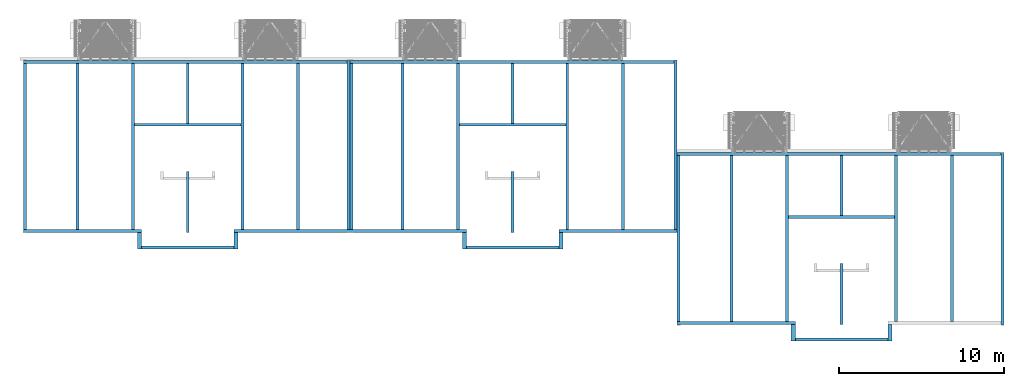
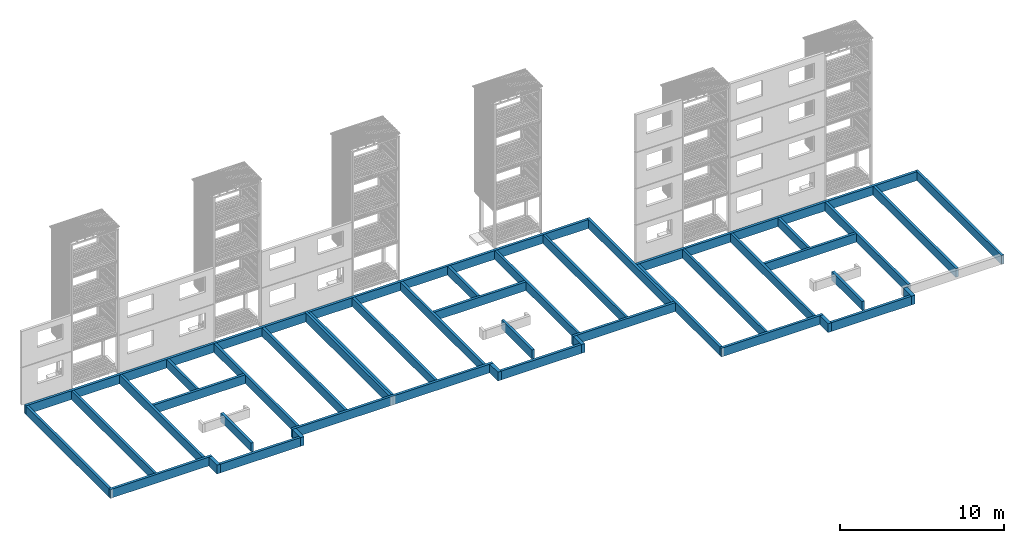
# One storey, part 1 of 182: 43 walls.
"""IFC2X3 building model written with IfcOpenShell, lengths in metres."""

from ifc_helpers import new_model, si_unit, frame, frame_2d, origin, origin_with_axes, place, context, project, spatial, rectangle, extrude, element, save


model = new_model("IFC2X3")

# Units and contexts
model_context = context("Model", 3, precision=1e-06, world=origin())
ifc_project = project(units=[si_unit("LENGTHUNIT", "METRE"), si_unit("PLANEANGLEUNIT", "RADIAN")], contexts=[model_context])

# Site, building, storey
site = spatial("IfcSite", under=ifc_project, CompositionType="ELEMENT")
building = spatial("IfcBuilding", under=site, CompositionType="ELEMENT")
storey = spatial("IfcBuildingStorey", under=building, Name="vs", CompositionType="ELEMENT", Elevation=-0.85)

# Walls
placement = place(None, origin())
wall_1_placement = place(placement, frame((32.52499999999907, 0.020077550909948, -0.85), z_axis=(0.0, 0.0, 1.0), x_axis=(0.0, -1.0, 0.0)))
element("IfcWall", 1, at=wall_1_placement, inside=storey, context=model_context, shape_type="SweptSolid", body=[
    extrude(rectangle(XDim=0.999914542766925, YDim=0.249999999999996, at=frame_2d((0.499957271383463, 0.124999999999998), x_axis=(1.0, 0.0)), kind="CURVE"), origin_with_axes(), (0.0, 0.0, 1.0), 0.65),
])
wall_2_placement = place(placement, frame((12.795000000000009, 0.02016279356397, -0.85), z_axis=(0.0, 0.0, 1.0), x_axis=(1.0, 0.0, 0.0)))
element("IfcWall", 2, at=wall_2_placement, inside=storey, context=model_context, shape_type="SweptSolid", body=[
    extrude(rectangle(XDim=14.110000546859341, YDim=0.18, at=frame_2d((7.055000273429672, 0.09), x_axis=(1.0, 0.0)), kind="CURVE"), origin_with_axes(), (0.0, 0.0, 1.0), 0.65),
])
wall_3_placement = place(placement, frame((39.51999999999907, 10.470077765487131, -0.85), z_axis=(0.0, 0.0, 1.0), x_axis=(-1.0, 0.0, 0.0)))
element("IfcWall", 3, at=wall_3_placement, inside=storey, context=model_context, shape_type="SweptSolid", body=[
    extrude(rectangle(XDim=19.669999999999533, YDim=0.18, at=frame_2d((9.834999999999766, 0.09), x_axis=(1.0, 0.0)), kind="CURVE"), origin_with_axes(), (0.0, 0.0, 1.0), 0.65),
])
wall_4_placement = place(placement, frame((10.075000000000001, 0.020038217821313, -0.85), z_axis=(0.0, 0.0, 1.0), x_axis=(0.0, 1.0, 0.0)))
element("IfcWall", 4, at=wall_4_placement, inside=storey, context=model_context, shape_type="SweptSolid", body=[
    extrude(rectangle(XDim=3.700039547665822, YDim=0.18, at=frame_2d((1.850019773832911, 0.09), x_axis=(1.0, 0.0)), kind="CURVE"), origin_with_axes(), (0.0, 0.0, 1.0), 0.65),
])
wall_5_placement = place(placement, frame((19.849999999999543, 10.290077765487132, -0.85), z_axis=(0.0, 0.0, 1.0), x_axis=(0.0, -1.0, 0.0)))
element("IfcWall", 5, at=wall_5_placement, inside=storey, context=model_context, shape_type="SweptSolid", body=[
    extrude(rectangle(XDim=10.08991497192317, YDim=0.18, at=frame_2d((5.044957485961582, 0.09), x_axis=(1.0, 0.0)), kind="CURVE"), origin_with_axes(), (0.0, 0.0, 1.0), 0.65),
])
wall_6_placement = place(placement, frame((52.90999947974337, 1.050077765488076, -0.85), z_axis=(0.0, 0.0, 1.0), x_axis=(-1.0, 0.0, 0.0)))
element("IfcWall", 6, at=wall_6_placement, inside=storey, context=model_context, shape_type="SweptSolid", body=[
    extrude(rectangle(XDim=6.449999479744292, YDim=0.18, at=frame_2d((3.224999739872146, 0.09), x_axis=(1.0, 0.0)), kind="CURVE"), origin_with_axes(), (0.0, 0.0, 1.0), 0.65),
])
wall_7_placement = place(placement, frame((12.795000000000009, 0.02016279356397, -0.85), z_axis=(0.0, 0.0, 1.0), x_axis=(0.0, -1.0, 0.0)))
element("IfcWall", 7, at=wall_7_placement, inside=storey, context=model_context, shape_type="SweptSolid", body=[
    extrude(rectangle(XDim=1.000085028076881, YDim=0.25, at=frame_2d((0.500042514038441, 0.125), x_axis=(1.0, 0.0)), kind="CURVE"), origin_with_axes(), (0.0, 0.0, 1.0), 0.65),
])
wall_8_placement = place(placement, frame((26.905000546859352, -0.979836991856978, -0.85), z_axis=(0.0, 0.0, 1.0), x_axis=(0.0, 1.0, 0.0)))
element("IfcWall", 8, at=wall_8_placement, inside=storey, context=model_context, shape_type="SweptSolid", body=[
    extrude(rectangle(XDim=0.999999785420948, YDim=0.25, at=frame_2d((0.499999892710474, 0.125), x_axis=(1.0, 0.0)), kind="CURVE"), origin_with_axes(), (0.0, 0.0, 1.0), 0.65),
])
wall_9_placement = place(placement, frame((16.77000000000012, 0.20016279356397, -0.85), z_axis=(0.0, 0.0, 1.0), x_axis=(0.0, 1.0, 0.0)))
element("IfcWall", 9, at=wall_9_placement, inside=storey, context=model_context, shape_type="SweptSolid", body=[
    extrude(rectangle(XDim=10.08991497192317, YDim=0.18, at=frame_2d((5.044957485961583, 0.09), x_axis=(1.0, 0.0)), kind="CURVE"), origin_with_axes(), (0.0, 0.0, 1.0), 0.65),
])
wall_10_placement = place(placement, frame((32.939999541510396, 6.650077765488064, -0.85), z_axis=(0.0, 0.0, 1.0), x_axis=(-1.0, 0.0, 0.0)))
element("IfcWall", 10, at=wall_10_placement, inside=storey, context=model_context, shape_type="SweptSolid", body=[
    extrude(rectangle(XDim=6.449999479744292, YDim=0.18, at=frame_2d((3.224999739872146, 0.09), x_axis=(1.0, 0.0)), kind="CURVE"), origin_with_axes(), (0.0, 0.0, 1.0), 0.65),
])
wall_11_placement = place(placement, frame((6.925, 0.020077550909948, -0.85), z_axis=(0.0, 0.0, 1.0), x_axis=(0.0, -1.0, 0.0)))
element("IfcWall", 11, at=wall_11_placement, inside=storey, context=model_context, shape_type="SweptSolid", body=[
    extrude(rectangle(XDim=0.999999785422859, YDim=0.25, at=frame_2d((0.499999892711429, 0.125), x_axis=(1.0, 0.0)), kind="CURVE"), origin_with_axes(), (0.0, 0.0, 1.0), 0.65),
])
wall_12_placement = place(placement, frame((7.175, -0.979922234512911, -0.85), z_axis=(0.0, 0.0, 1.0), x_axis=(1.0, 0.0, 0.0)))
element("IfcWall", 12, at=wall_12_placement, inside=storey, context=model_context, shape_type="SweptSolid", body=[
    extrude(rectangle(XDim=5.620000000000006, YDim=0.18, at=frame_2d((2.810000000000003, 0.09), x_axis=(1.0, 0.0)), kind="CURVE"), origin_with_axes(), (0.0, 0.0, 1.0), 0.65),
])
wall_13_placement = place(placement, frame((59.36999999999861, 4.870077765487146, -0.85), z_axis=(0.0, 0.0, 1.0), x_axis=(-1.0, 0.0, 0.0)))
element("IfcWall", 13, at=wall_13_placement, inside=storey, context=model_context, shape_type="SweptSolid", body=[
    extrude(rectangle(XDim=19.669999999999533, YDim=0.18, at=frame_2d((9.834999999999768, 0.09), x_axis=(1.0, 0.0)), kind="CURVE"), origin_with_axes(), (0.0, 0.0, 1.0), 0.65),
])
wall_14_placement = place(placement, frame((13.20999947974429, 6.650077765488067, -0.85), z_axis=(0.0, 0.0, 1.0), x_axis=(-1.0, 0.0, 0.0)))
element("IfcWall", 14, at=wall_14_placement, inside=storey, context=model_context, shape_type="SweptSolid", body=[
    extrude(rectangle(XDim=6.449999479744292, YDim=0.18, at=frame_2d((3.224999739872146, 0.09), x_axis=(1.0, 0.0)), kind="CURVE"), origin_with_axes(), (0.0, 0.0, 1.0), 0.65),
])
wall_15_placement = place(placement, frame((29.80499999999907, 0.020038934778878, -0.85), z_axis=(0.0, 0.0, 1.0), x_axis=(0.0, 1.0, 0.0)))
element("IfcWall", 15, at=wall_15_placement, inside=storey, context=model_context, shape_type="SweptSolid", body=[
    extrude(rectangle(XDim=3.700038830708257, YDim=0.18, at=frame_2d((1.850019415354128, 0.09), x_axis=(1.0, 0.0)), kind="CURVE"), origin_with_axes(), (0.0, 0.0, 1.0), 0.65),
])
wall_16_placement = place(placement, frame((46.87499999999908, -6.579922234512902, -0.85), z_axis=(0.0, 0.0, 1.0), x_axis=(1.0, 0.0, 0.0)))
element("IfcWall", 16, at=wall_16_placement, inside=storey, context=model_context, shape_type="SweptSolid", body=[
    extrude(rectangle(XDim=5.620000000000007, YDim=0.18, at=frame_2d((2.810000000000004, 0.09), x_axis=(1.0, 0.0)), kind="CURVE"), origin_with_axes(), (0.0, 0.0, 1.0), 0.65),
])
wall_17_placement = place(placement, frame((-4e-15, 10.29007776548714, -0.85), z_axis=(0.0, 0.0, 1.0), x_axis=(0.0, -1.0, 0.0)))
element("IfcWall", 17, at=wall_17_placement, inside=storey, context=model_context, shape_type="SweptSolid", body=[
    extrude(rectangle(XDim=10.090000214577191, YDim=0.18, at=frame_2d((5.045000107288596, 0.09), x_axis=(1.0, 0.0)), kind="CURVE"), origin_with_axes(), (0.0, 0.0, 1.0), 0.65),
])
wall_18_placement = place(placement, frame((49.77499999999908, 1.050077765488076, -0.85), z_axis=(0.0, 0.0, 1.0), x_axis=(0.0, 1.0, 0.0)))
element("IfcWall", 18, at=wall_18_placement, inside=storey, context=model_context, shape_type="SweptSolid", body=[
    extrude(rectangle(XDim=3.639999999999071, YDim=0.18, at=frame_2d((1.819999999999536, 0.09), x_axis=(1.0, 0.0)), kind="CURVE"), origin_with_axes(), (0.0, 0.0, 1.0), 0.65),
])
wall_19_placement = place(placement, frame((46.62499999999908, -5.579922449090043, -0.85), z_axis=(0.0, 0.0, 1.0), x_axis=(0.0, -1.0, 0.0)))
element("IfcWall", 19, at=wall_19_placement, inside=storey, context=model_context, shape_type="SweptSolid", body=[
    extrude(rectangle(XDim=0.999999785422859, YDim=0.25, at=frame_2d((0.499999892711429, 0.125), x_axis=(1.0, 0.0)), kind="CURVE"), origin_with_axes(), (0.0, 0.0, 1.0), 0.65),
])
wall_20_placement = place(placement, frame((23.10999999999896, 0.20016279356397, -0.85), z_axis=(0.0, 0.0, 1.0), x_axis=(0.0, 1.0, 0.0)))
element("IfcWall", 20, at=wall_20_placement, inside=storey, context=model_context, shape_type="SweptSolid", body=[
    extrude(rectangle(XDim=10.08991497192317, YDim=0.18, at=frame_2d((5.044957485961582, 0.09), x_axis=(1.0, 0.0)), kind="CURVE"), origin_with_axes(), (0.0, 0.0, 1.0), 0.65),
])
wall_21_placement = place(placement, frame((39.69999999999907, 0.200077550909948, -0.85), z_axis=(0.0, 0.0, 1.0), x_axis=(0.0, 1.0, 0.0)))
element("IfcWall", 21, at=wall_21_placement, inside=storey, context=model_context, shape_type="SweptSolid", body=[
    extrude(rectangle(XDim=10.270000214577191, YDim=0.18, at=frame_2d((5.135000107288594, 0.09), x_axis=(1.0, 0.0)), kind="CURVE"), origin_with_axes(), (0.0, 0.0, 1.0), 0.65),
])
wall_22_placement = place(placement, frame((26.905000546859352, -0.979836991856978, -0.85), z_axis=(0.0, 0.0, 1.0), x_axis=(1.0, 0.0, 0.0)))
element("IfcWall", 22, at=wall_22_placement, inside=storey, context=model_context, shape_type="SweptSolid", body=[
    extrude(rectangle(XDim=5.619999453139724, YDim=0.18, at=frame_2d((2.809999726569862, 0.09), x_axis=(1.0, 0.0)), kind="CURVE"), origin_with_axes(), (0.0, 0.0, 1.0), 0.65),
])
wall_23_placement = place(placement, frame((59.54999999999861, -5.579837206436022, -0.85), z_axis=(0.0, 0.0, 1.0), x_axis=(0.0, 1.0, 0.0)))
element("IfcWall", 23, at=wall_23_placement, inside=storey, context=model_context, shape_type="SweptSolid", body=[
    extrude(rectangle(XDim=10.449914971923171, YDim=0.18, at=frame_2d((5.224957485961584, 0.09), x_axis=(1.0, 0.0)), kind="CURVE"), origin_with_axes(), (0.0, 0.0, 1.0), 0.65),
])
wall_24_placement = place(placement, frame((53.08999993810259, -5.399837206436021, -0.85), z_axis=(0.0, 0.0, 1.0), x_axis=(0.0, 1.0, 0.0)))
element("IfcWall", 24, at=wall_24_placement, inside=storey, context=model_context, shape_type="SweptSolid", body=[
    extrude(rectangle(XDim=10.08991497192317, YDim=0.18, at=frame_2d((5.044957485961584, 0.09), x_axis=(1.0, 0.0)), kind="CURVE"), origin_with_axes(), (0.0, 0.0, 1.0), 0.65),
])
wall_25_placement = place(placement, frame((19.849999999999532, 0.20016279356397, -0.85), z_axis=(0.0, 0.0, 1.0), x_axis=(0.0, 1.0, 0.0)))
element("IfcWall", 25, at=wall_25_placement, inside=storey, context=model_context, shape_type="SweptSolid", body=[
    extrude(rectangle(XDim=10.26991497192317, YDim=0.18, at=frame_2d((5.134957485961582, 0.09), x_axis=(1.0, 0.0)), kind="CURVE"), origin_with_axes(), (0.0, 0.0, 1.0), 0.65),
])
wall_26_placement = place(placement, frame((39.69999999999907, -5.579922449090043, -0.85), z_axis=(0.0, 0.0, 1.0), x_axis=(1.0, 0.0, 0.0)))
element("IfcWall", 26, at=wall_26_placement, inside=storey, context=model_context, shape_type="SweptSolid", body=[
    extrude(rectangle(XDim=7.175000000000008, YDim=0.18, at=frame_2d((3.587500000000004, 0.09), x_axis=(1.0, 0.0)), kind="CURVE"), origin_with_axes(), (0.0, 0.0, 1.0), 0.65),
])
wall_27_placement = place(placement, frame((26.49000006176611, 0.20016279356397, -0.85), z_axis=(0.0, 0.0, 1.0), x_axis=(0.0, 1.0, 0.0)))
element("IfcWall", 27, at=wall_27_placement, inside=storey, context=model_context, shape_type="SweptSolid", body=[
    extrude(rectangle(XDim=10.08991497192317, YDim=0.18, at=frame_2d((5.044957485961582, 0.09), x_axis=(1.0, 0.0)), kind="CURVE"), origin_with_axes(), (0.0, 0.0, 1.0), 0.65),
])
for number, where, z_axis, x_axis in (
    (28, (39.69999999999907, 4.690077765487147, -0.85), (0.0, 0.0, 1.0), (0.0, -1.0, 0.0)),
    (29, (46.459999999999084, -5.399922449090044, -0.85), (0.0, 0.0, 1.0), (0.0, 1.0, 0.0)),
):
    element("IfcWall", number, at=place(placement, frame(where, z_axis=z_axis, x_axis=x_axis)), inside=storey, context=model_context, shape_type="SweptSolid", body=[
        extrude(rectangle(XDim=10.090000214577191, YDim=0.18, at=frame_2d((5.045000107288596, 0.09), x_axis=(1.0, 0.0)), kind="CURVE"), origin_with_axes(), (0.0, 0.0, 1.0), 0.65),
    ])
wall_28_placement = place(placement, frame((52.49499999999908, -5.579837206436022, -0.85), z_axis=(0.0, 0.0, 1.0), x_axis=(0.0, -1.0, 0.0)))
element("IfcWall", 30, at=wall_28_placement, inside=storey, context=model_context, shape_type="SweptSolid", body=[
    extrude(rectangle(XDim=1.000085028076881, YDim=0.25, at=frame_2d((0.500042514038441, 0.125), x_axis=(1.0, 0.0)), kind="CURVE"), origin_with_axes(), (0.0, 0.0, 1.0), 0.65),
])
wall_29_placement = place(placement, frame((56.469999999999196, -5.399837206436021, -0.85), z_axis=(0.0, 0.0, 1.0), x_axis=(0.0, 1.0, 0.0)))
element("IfcWall", 31, at=wall_29_placement, inside=storey, context=model_context, shape_type="SweptSolid", body=[
    extrude(rectangle(XDim=10.08991497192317, YDim=0.18, at=frame_2d((5.044957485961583, 0.09), x_axis=(1.0, 0.0)), kind="CURVE"), origin_with_axes(), (0.0, 0.0, 1.0), 0.65),
])
wall_30_placement = place(placement, frame((32.52499999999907, 0.020077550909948, -0.85), z_axis=(0.0, 0.0, 1.0), x_axis=(1.0, 0.0, 0.0)))
element("IfcWall", 32, at=wall_30_placement, inside=storey, context=model_context, shape_type="SweptSolid", body=[
    extrude(rectangle(XDim=7.174999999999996, YDim=0.18, at=frame_2d((3.587499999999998, 0.09), x_axis=(1.0, 0.0)), kind="CURVE"), origin_with_axes(), (0.0, 0.0, 1.0), 0.65),
])
wall_31_placement = place(placement, frame((13.38999993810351, 0.20016279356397, -0.85), z_axis=(0.0, 0.0, 1.0), x_axis=(0.0, 1.0, 0.0)))
element("IfcWall", 33, at=wall_31_placement, inside=storey, context=model_context, shape_type="SweptSolid", body=[
    extrude(rectangle(XDim=10.08991497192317, YDim=0.18, at=frame_2d((5.044957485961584, 0.09), x_axis=(1.0, 0.0)), kind="CURVE"), origin_with_axes(), (0.0, 0.0, 1.0), 0.65),
])
for number, where, z_axis, x_axis in (
    (34, (43.07999999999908, -5.399922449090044, -0.85), (0.0, 0.0, 1.0), (0.0, 1.0, 0.0)),
    (35, (36.49999999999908, 0.200077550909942, -0.85), (0.0, 0.0, 1.0), (0.0, 1.0, 0.0)),
):
    element("IfcWall", number, at=place(placement, frame(where, z_axis=z_axis, x_axis=x_axis)), inside=storey, context=model_context, shape_type="SweptSolid", body=[
        extrude(rectangle(XDim=10.090000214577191, YDim=0.18, at=frame_2d((5.045000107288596, 0.09), x_axis=(1.0, 0.0)), kind="CURVE"), origin_with_axes(), (0.0, 0.0, 1.0), 0.65),
    ])
wall_32_placement = place(placement, frame((29.80499999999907, 6.650077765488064, -0.85), z_axis=(0.0, 0.0, 1.0), x_axis=(0.0, 1.0, 0.0)))
element("IfcWall", 36, at=wall_32_placement, inside=storey, context=model_context, shape_type="SweptSolid", body=[
    extrude(rectangle(XDim=3.639999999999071, YDim=0.18, at=frame_2d((1.819999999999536, 0.09), x_axis=(1.0, 0.0)), kind="CURVE"), origin_with_axes(), (0.0, 0.0, 1.0), 0.65),
])
wall_33_placement = place(placement, frame((6.759999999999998, 0.200077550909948, -0.85), z_axis=(0.0, 0.0, 1.0), x_axis=(0.0, 1.0, 0.0)))
element("IfcWall", 37, at=wall_33_placement, inside=storey, context=model_context, shape_type="SweptSolid", body=[
    extrude(rectangle(XDim=10.090000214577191, YDim=0.18, at=frame_2d((5.045000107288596, 0.09), x_axis=(1.0, 0.0)), kind="CURVE"), origin_with_axes(), (0.0, 0.0, 1.0), 0.65),
])
wall_34_placement = place(placement, frame((49.77499999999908, -5.579961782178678, -0.85), z_axis=(0.0, 0.0, 1.0), x_axis=(0.0, 1.0, 0.0)))
element("IfcWall", 38, at=wall_34_placement, inside=storey, context=model_context, shape_type="SweptSolid", body=[
    extrude(rectangle(XDim=3.700039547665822, YDim=0.18, at=frame_2d((1.850019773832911, 0.09), x_axis=(1.0, 0.0)), kind="CURVE"), origin_with_axes(), (0.0, 0.0, 1.0), 0.65),
])
for number, where, z_axis, x_axis in (
    (39, (33.11999999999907, 0.200077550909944, -0.85), (0.0, 0.0, 1.0), (0.0, 1.0, 0.0)),
    (40, (3.38, 0.200077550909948, -0.85), (0.0, 0.0, 1.0), (0.0, 1.0, 0.0)),
):
    element("IfcWall", number, at=place(placement, frame(where, z_axis=z_axis, x_axis=x_axis)), inside=storey, context=model_context, shape_type="SweptSolid", body=[
        extrude(rectangle(XDim=10.090000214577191, YDim=0.18, at=frame_2d((5.045000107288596, 0.09), x_axis=(1.0, 0.0)), kind="CURVE"), origin_with_axes(), (0.0, 0.0, 1.0), 0.65),
    ])
wall_35_placement = place(placement, frame((-6e-15, 0.020077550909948, -0.85), z_axis=(0.0, 0.0, 1.0), x_axis=(1.0, 0.0, 0.0)))
element("IfcWall", 41, at=wall_35_placement, inside=storey, context=model_context, shape_type="SweptSolid", body=[
    extrude(rectangle(XDim=7.175000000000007, YDim=0.18, at=frame_2d((3.587500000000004, 0.09), x_axis=(1.0, 0.0)), kind="CURVE"), origin_with_axes(), (0.0, 0.0, 1.0), 0.65),
])
wall_36_placement = place(placement, frame((19.669999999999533, 10.47007776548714, -0.85), z_axis=(0.0, 0.0, 1.0), x_axis=(-1.0, 0.0, 0.0)))
element("IfcWall", 42, at=wall_36_placement, inside=storey, context=model_context, shape_type="SweptSolid", body=[
    extrude(rectangle(XDim=19.669999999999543, YDim=0.18, at=frame_2d((9.83499999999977, 0.09), x_axis=(1.0, 0.0)), kind="CURVE"), origin_with_axes(), (0.0, 0.0, 1.0), 0.65),
])
wall_37_placement = place(placement, frame((10.075000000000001, 6.650077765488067, -0.85), z_axis=(0.0, 0.0, 1.0), x_axis=(0.0, 1.0, 0.0)))
element("IfcWall", 43, at=wall_37_placement, inside=storey, context=model_context, shape_type="SweptSolid", body=[
    extrude(rectangle(XDim=3.639999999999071, YDim=0.18, at=frame_2d((1.819999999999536, 0.09), x_axis=(1.0, 0.0)), kind="CURVE"), origin_with_axes(), (0.0, 0.0, 1.0), 0.65),
])

save(model, "model.ifc")
